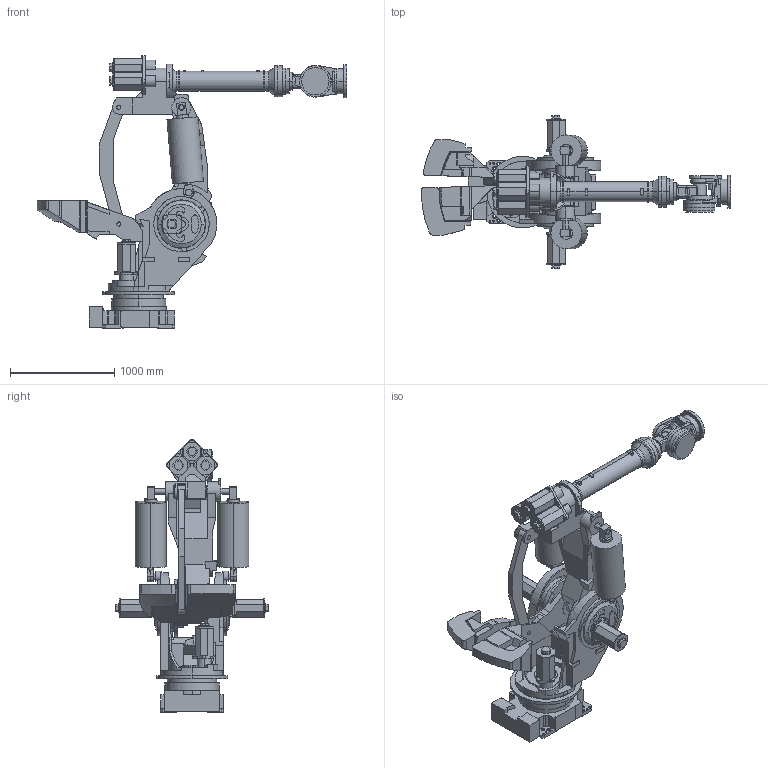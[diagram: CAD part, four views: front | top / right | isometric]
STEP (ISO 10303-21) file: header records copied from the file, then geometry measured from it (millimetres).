
FILE_DESCRIPTION (( 'STEP AP214' ), '1' );
FILE_NAME ('Fanuc-M-900iA-600.STEP', '2023-06-02T05:37:21', ( '' ), ( '' ), 'SwSTEP 2.0', 'SolidWorks 2021', '' );
FILE_SCHEMA (( 'AUTOMOTIVE_DESIGN' ));
Length unit declared in the file: millimetre
Products named in the file (1): Fanuc-M-900iA-600
Bounding box: 2967.33 x 1461.6 x 2615 mm (x, y, z)
Volume: 696900722 mm3; surface area: 19561995.8 mm2
Topology: 14 solids, 24 shells, 1730 faces, 4646 edges, 3058 vertices
Faces by surface type: plane 1062, cylinder 597, cone 62, torus 9
Entity records: 74826 total; most frequent: CARTESIAN_POINT 11352, DIRECTION 9259, ORIENTED_EDGE 9244, EDGE_CURVE 4622, LINE 3113, VECTOR 3113, AXIS2_PLACEMENT_3D 3073, VERTEX_POINT 3058
